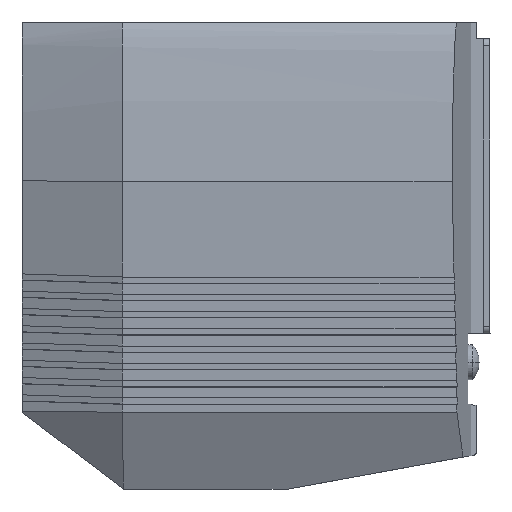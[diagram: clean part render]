
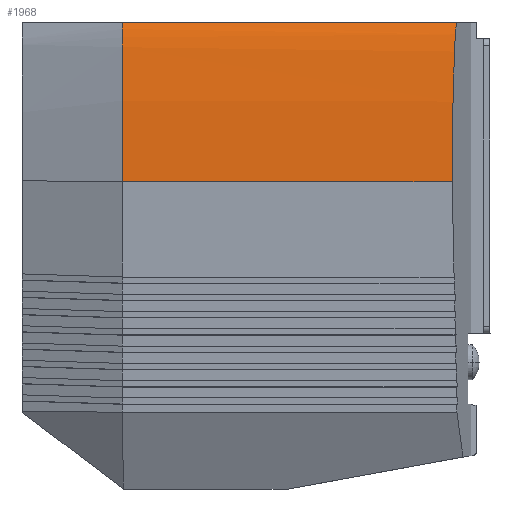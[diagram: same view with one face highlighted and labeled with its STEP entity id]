
A CAD part, left-side view. The second image highlights one B-rep face of the part: STEP entity #1968.
In plain terms, the highlighted free-form (B-spline) face has degree [3, 1] with [8, 2] control points.
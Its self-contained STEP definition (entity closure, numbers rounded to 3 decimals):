
#14 = VERTEX_POINT ( 'NONE', #580 ) ;
#29 = VERTEX_POINT ( 'NONE', #595 ) ;
#70 = VERTEX_POINT ( 'NONE', #636 ) ;
#103 = VERTEX_POINT ( 'NONE', #669 ) ;
#413 = EDGE_CURVE ( 'NONE', #29, #70, #3538, .T. ) ;
#415 = EDGE_CURVE ( 'NONE', #103, #14, #3537, .T. ) ;
#418 = EDGE_CURVE ( 'NONE', #14, #29, #1106, .T. ) ;
#419 = EDGE_CURVE ( 'NONE', #70, #103, #1129, .T. ) ;
#580 = CARTESIAN_POINT ( 'NONE',  ( -32.21, -24.095, -35.951 ) ) ;
#595 = CARTESIAN_POINT ( 'NONE',  ( -32.21, 71.085, -35.951 ) ) ;
#636 = CARTESIAN_POINT ( 'NONE',  ( -27.578, 71.085, 10. ) ) ;
#669 = CARTESIAN_POINT ( 'NONE',  ( -27.578, -25.334, 10. ) ) ;
#1064 = CARTESIAN_POINT ( 'NONE',  ( -32.21, 71.085, -35.951 ) ) ;
#1065 = CARTESIAN_POINT ( 'NONE',  ( -32.13, 71.085, -32.399 ) ) ;
#1066 = CARTESIAN_POINT ( 'NONE',  ( -27.97, -25.229, 9.107 ) ) ;
#1071 = CARTESIAN_POINT ( 'NONE',  ( -32.027, 71.085, -28.781 ) ) ;
#1072 = CARTESIAN_POINT ( 'NONE',  ( -31.795, 71.085, -22.979 ) ) ;
#1073 = CARTESIAN_POINT ( 'NONE',  ( -31.693, 71.085, -20.774 ) ) ;
#1074 = CARTESIAN_POINT ( 'NONE',  ( -31.455, 71.085, -16.355 ) ) ;
#1075 = CARTESIAN_POINT ( 'NONE',  ( -31.321, 71.085, -14.149 ) ) ;
#1076 = CARTESIAN_POINT ( 'NONE',  ( -30.997, 71.085, -9.662 ) ) ;
#1077 = CARTESIAN_POINT ( 'NONE',  ( -30.806, 71.085, -7.398 ) ) ;
#1078 = CARTESIAN_POINT ( 'NONE',  ( -30.44, 71.085, -3.944 ) ) ;
#1079 = CARTESIAN_POINT ( 'NONE',  ( -30.306, 71.085, -2.788 ) ) ;
#1080 = CARTESIAN_POINT ( 'NONE',  ( -30.007, 71.085, -0.465 ) ) ;
#1081 = CARTESIAN_POINT ( 'NONE',  ( -29.841, 71.085, 0.726 ) ) ;
#1082 = CARTESIAN_POINT ( 'NONE',  ( -29.535, 71.085, 2.584 ) ) ;
#1083 = CARTESIAN_POINT ( 'NONE',  ( -29.425, 71.085, 3.209 ) ) ;
#1084 = CARTESIAN_POINT ( 'NONE',  ( -29.176, 71.085, 4.508 ) ) ;
#1085 = CARTESIAN_POINT ( 'NONE',  ( -29.039, 71.085, 5.18 ) ) ;
#1086 = CARTESIAN_POINT ( 'NONE',  ( -28.786, 71.085, 6.249 ) ) ;
#1087 = CARTESIAN_POINT ( 'NONE',  ( -28.702, 71.085, 6.597 ) ) ;
#1088 = CARTESIAN_POINT ( 'NONE',  ( -28.543, 71.085, 7.195 ) ) ;
#1089 = CARTESIAN_POINT ( 'NONE',  ( -28.486, 71.085, 7.405 ) ) ;
#1090 = CARTESIAN_POINT ( 'NONE',  ( -28.354, 71.085, 7.862 ) ) ;
#1091 = CARTESIAN_POINT ( 'NONE',  ( -28.28, 71.085, 8.107 ) ) ;
#1092 = CARTESIAN_POINT ( 'NONE',  ( -28.144, 71.085, 8.525 ) ) ;
#1093 = CARTESIAN_POINT ( 'NONE',  ( -28.094, 71.085, 8.672 ) ) ;
#1094 = CARTESIAN_POINT ( 'NONE',  ( -27.981, 71.085, 8.992 ) ) ;
#1095 = CARTESIAN_POINT ( 'NONE',  ( -27.915, 71.085, 9.171 ) ) ;
#1096 = CARTESIAN_POINT ( 'NONE',  ( -27.806, 71.085, 9.454 ) ) ;
#1097 = CARTESIAN_POINT ( 'NONE',  ( -27.76, 71.085, 9.568 ) ) ;
#1098 = CARTESIAN_POINT ( 'NONE',  ( -27.695, 71.085, 9.727 ) ) ;
#1099 = CARTESIAN_POINT ( 'NONE',  ( -27.666, 71.085, 9.795 ) ) ;
#1100 = CARTESIAN_POINT ( 'NONE',  ( -27.622, 71.085, 9.899 ) ) ;
#1101 = CARTESIAN_POINT ( 'NONE',  ( -27.591, 71.085, 9.971 ) ) ;
#1102 = CARTESIAN_POINT ( 'NONE',  ( -27.578, 71.085, 10. ) ) ;
#1104 = CARTESIAN_POINT ( 'NONE',  ( -27.578, -25.334, 10. ) ) ;
#1106 = LINE ( 'NONE', #1127, #4311 ) ;
#1108 = CARTESIAN_POINT ( 'NONE',  ( -28.27, -25.149, 8.191 ) ) ;
#1109 = CARTESIAN_POINT ( 'NONE',  ( -28.778, -25.013, 6.337 ) ) ;
#1110 = CARTESIAN_POINT ( 'NONE',  ( -28.992, -24.956, 5.401 ) ) ;
#1111 = CARTESIAN_POINT ( 'NONE',  ( -29.564, -24.802, 2.573 ) ) ;
#1112 = CARTESIAN_POINT ( 'NONE',  ( -29.856, -24.724, 0.665 ) ) ;
#1113 = CARTESIAN_POINT ( 'NONE',  ( -30.612, -24.522, -5.082 ) ) ;
#1114 = CARTESIAN_POINT ( 'NONE',  ( -30.954, -24.43, -8.93 ) ) ;
#1115 = CARTESIAN_POINT ( 'NONE',  ( -31.355, -24.323, -14.714 ) ) ;
#1116 = CARTESIAN_POINT ( 'NONE',  ( -31.471, -24.292, -16.643 ) ) ;
#1117 = CARTESIAN_POINT ( 'NONE',  ( -31.679, -24.237, -20.502 ) ) ;
#1118 = CARTESIAN_POINT ( 'NONE',  ( -31.952, -24.164, -26.292 ) ) ;
#1119 = CARTESIAN_POINT ( 'NONE',  ( -32.125, -24.118, -32.087 ) ) ;
#1120 = CARTESIAN_POINT ( 'NONE',  ( -32.21, -24.095, -35.951 ) ) ;
#1127 = CARTESIAN_POINT ( 'NONE',  ( -32.21, 99.505, -35.951 ) ) ;
#1128 = DIRECTION ( 'NONE',  ( 0., 1., 0. ) ) ;
#1129 = LINE ( 'NONE', #1130, #4306 ) ;
#1130 = CARTESIAN_POINT ( 'NONE',  ( -27.578, 146.189, 10. ) ) ;
#1131 = DIRECTION ( 'NONE',  ( 0., -1., 0. ) ) ;
#1848 = B_SPLINE_SURFACE_WITH_KNOTS ( 'NONE', 3, 1, ( 
 ( #3163, #3154 ),
 ( #3165, #3166 ),
 ( #3167, #3168 ),
 ( #3169, #3170 ),
 ( #3171, #3172 ),
 ( #3173, #3174 ),
 ( #3175, #3176 ),
 ( #3177, #3178 ) ),
 .UNSPECIFIED., .F., .F., .F.,
 ( 4, 1, 1, 1, 1, 4 ),
 ( 2, 2 ),
 ( 0., 0.441, 0.749, 0.849, 0.921, 1. ),
 ( 0., 1. ),
 .UNSPECIFIED. ) ;
#1968 = ADVANCED_FACE ( 'NONE', ( #3162 ), #1848, .T. ) ;
#3154 = CARTESIAN_POINT ( 'NONE',  ( -32.21, -25.913, -35.951 ) ) ;
#3162 = FACE_OUTER_BOUND ( 'NONE', #4255, .T. ) ;
#3163 = CARTESIAN_POINT ( 'NONE',  ( -32.21, 71.085, -35.951 ) ) ;
#3165 = CARTESIAN_POINT ( 'NONE',  ( -32.061, 71.085, -29.148 ) ) ;
#3166 = CARTESIAN_POINT ( 'NONE',  ( -32.061, -25.913, -29.148 ) ) ;
#3167 = CARTESIAN_POINT ( 'NONE',  ( -31.645, 71.085, -17.591 ) ) ;
#3168 = CARTESIAN_POINT ( 'NONE',  ( -31.645, -25.913, -17.591 ) ) ;
#3169 = CARTESIAN_POINT ( 'NONE',  ( -30.615, 71.085, -4.504 ) ) ;
#3170 = CARTESIAN_POINT ( 'NONE',  ( -30.615, -25.913, -4.504 ) ) ;
#3171 = CARTESIAN_POINT ( 'NONE',  ( -29.526, 71.085, 2.84 ) ) ;
#3172 = CARTESIAN_POINT ( 'NONE',  ( -29.526, -25.913, 2.84 ) ) ;
#3173 = CARTESIAN_POINT ( 'NONE',  ( -28.741, 71.085, 6.642 ) ) ;
#3174 = CARTESIAN_POINT ( 'NONE',  ( -28.741, -25.913, 6.642 ) ) ;
#3175 = CARTESIAN_POINT ( 'NONE',  ( -28.07, 71.085, 8.881 ) ) ;
#3176 = CARTESIAN_POINT ( 'NONE',  ( -28.07, -25.913, 8.881 ) ) ;
#3177 = CARTESIAN_POINT ( 'NONE',  ( -27.578, 71.085, 10. ) ) ;
#3178 = CARTESIAN_POINT ( 'NONE',  ( -27.578, -25.913, 10. ) ) ;
#3192 = ORIENTED_EDGE ( 'NONE', *, *, #419, .F. ) ;
#3193 = ORIENTED_EDGE ( 'NONE', *, *, #413, .F. ) ;
#3194 = ORIENTED_EDGE ( 'NONE', *, *, #418, .F. ) ;
#3195 = ORIENTED_EDGE ( 'NONE', *, *, #415, .F. ) ;
#3537 = B_SPLINE_CURVE_WITH_KNOTS ( 'NONE', 3,
 ( #1104, #1066, #1108, #1109, #1110, #1111, #1112, #1113, #1114, #1115, #1116, #1117, #1118, #1119, #1120 ),
 .UNSPECIFIED., .F., .F.,
 ( 4, 2, 2, 2, 2, 2, 1, 4 ),
 ( 0., 0.003, 0.006, 0.012, 0.023, 0.029, 0.035, 0.046 ),
 .UNSPECIFIED. ) ;
#3538 = B_SPLINE_CURVE_WITH_KNOTS ( 'NONE', 3,
 ( #1064, #1065, #1071, #1072, #1073, #1074, #1075, #1076, #1077, #1078, #1079, #1080, #1081, #1082, #1083, #1084, #1085, #1086, #1087, #1088, #1089, #1090, #1091, #1092, #1093, #1094, #1095, #1096, #1097, #1098, #1099, #1100, #1101, #1102 ),
 .UNSPECIFIED., .F., .F.,
 ( 4, 2, 2, 2, 2, 2, 2, 2, 2, 2, 2, 2, 2, 2, 2, 2, 4 ),
 ( 0., 0.253, 0.407, 0.561, 0.716, 0.793, 0.87, 0.909, 0.947, 0.966, 0.976, 0.986, 0.991, 0.995, 0.998, 0.999, 1. ),
 .UNSPECIFIED. ) ;
#4255 = EDGE_LOOP ( 'NONE', ( #3192, #3193, #3194, #3195 ) ) ;
#4306 = VECTOR ( 'NONE', #1131, 1000. ) ;
#4311 = VECTOR ( 'NONE', #1128, 1000. ) ;
